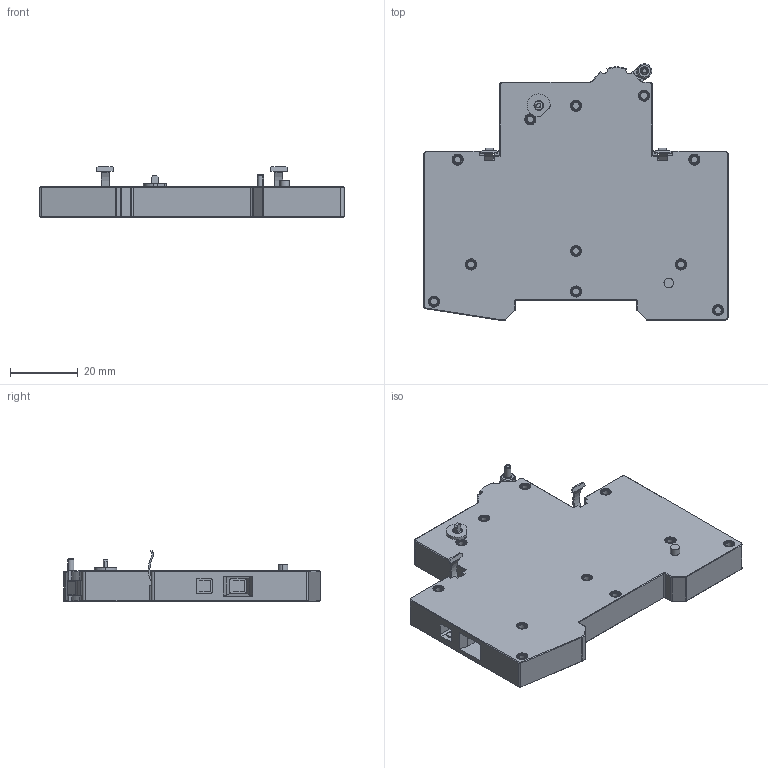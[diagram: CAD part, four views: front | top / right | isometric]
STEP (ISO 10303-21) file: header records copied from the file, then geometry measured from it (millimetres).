
FILE_DESCRIPTION (( 'STEP AP214' ), '1' );
FILE_NAME ('PS-LV.step', '2011-08-08T12:35:58', ( 'Radek Veselý' ), ( 'Siemens and Partners' ), 'SwSTEP 2.0', 'SolidWorks 2006303', '' );
FILE_SCHEMA (( 'AUTOMOTIVE_DESIGN' ));
Length unit declared in the file: millimetre
Products named in the file (1): PS-LV
Bounding box: 90 x 75.85 x 15 mm (x, y, z)
Volume: 44405.2 mm3; surface area: 17908.7 mm2
Topology: 9 solids, 9 shells, 889 faces, 2131 edges, 1302 vertices
Faces by surface type: plane 363, cylinder 301, cone 109, torus 104, sphere 12
Entity records: 35831 total; most frequent: CARTESIAN_POINT 4837, DIRECTION 4765, ORIENTED_EDGE 4230, EDGE_CURVE 2115, AXIS2_PLACEMENT_3D 1862, VERTEX_POINT 1302, LINE 1041, VECTOR 1041
